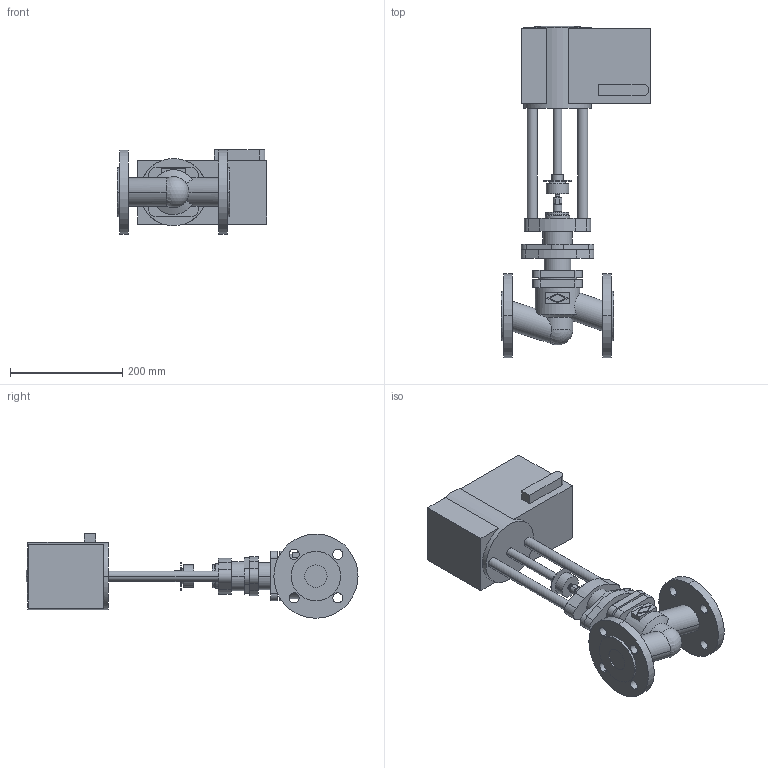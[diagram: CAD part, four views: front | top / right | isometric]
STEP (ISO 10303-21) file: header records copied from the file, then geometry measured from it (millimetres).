
FILE_DESCRIPTION(('Creo Elements/Direct Modeling STEP Export'),'2;1');
FILE_NAME('c000004845.stp','2013-06-04T 9:54:39',(''),(''),'Creo Elements/Direct Modeling STEP processor for AP203 (Solid Model)','Creo Elements/Direct Modeling 17.0D 15-Jul-2011 (C) Parametric Technology GmbH','');
FILE_SCHEMA(('CONFIG_CONTROL_DESIGN'));
Length unit declared in the file: millimetre
Products named in the file (4): 1; AnbauteileVentil; Antrieb
Assembly tree (1 placements, depth 2):
  1
  AnbauteileVentil
  Antrieb
    Antrieb
Bounding box: 266 x 592 x 150.5 mm (x, y, z)
Volume: 5612781.6 mm3; surface area: 398972.1 mm2
Topology: 3 solids, 4 shells, 220 faces, 526 edges, 333 vertices
Faces by surface type: cylinder 94, plane 81, cone 26, torus 16, sphere 3
Entity records: 6656 total; most frequent: CARTESIAN_POINT 1420, ORIENTED_EDGE 1040, DIRECTION 968, EDGE_CURVE 520, AXIS2_PLACEMENT_3D 364, VERTEX_POINT 333, EDGE_LOOP 263, VECTOR 240
